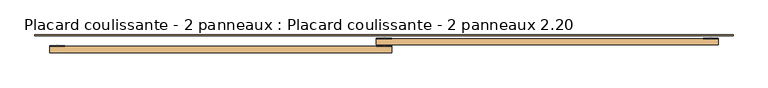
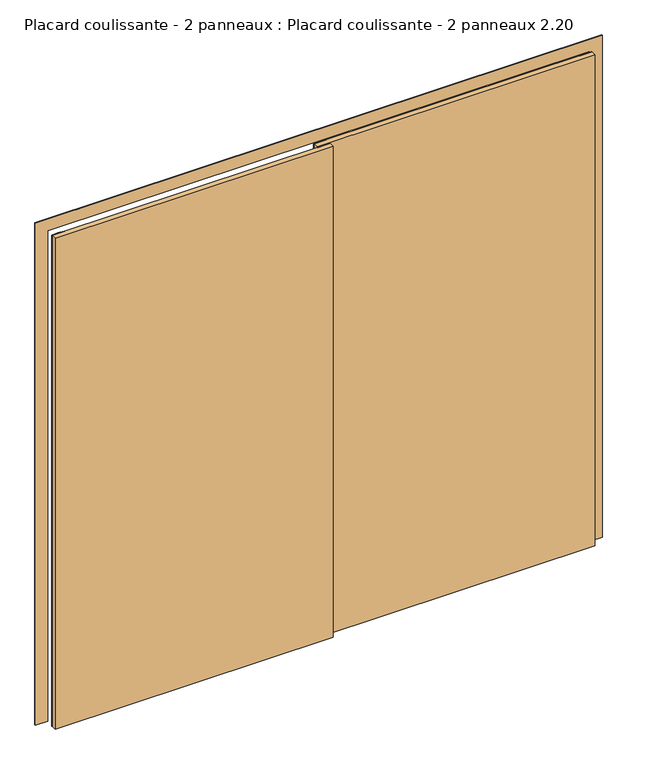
"""IFC4 building model written with IfcOpenShell, lengths in millimetres: door geometry, Placard coulissante - 2 panneaux : Placard coulissante - 2 panneaux 2.20."""

import ifcopenshell
import ifcopenshell.guid

model = None  # the IFC model being written
_history = None  # IfcOwnerHistory: only IFC2X3 demands one
_inside = {}  # id of a spatial element -> (the spatial element, [elements in it])
_under = {}  # id of a project, library or spatial element -> (it, [spatial elements below it])
_declared = {}  # id of a project -> (the project, [libraries it declares])
_typed = {}  # id of a type object -> (the type object, [elements of that type])
_made_of = {}  # id of a material, layer set ... -> (it, [elements and type objects made of it])


def new_model(schema):
    """Start an empty IFC model of exactly this schema.

    Asked for "IFC4X3", IfcOpenShell would pick the latest addendum, in which some entities
    have other attributes; the version numbers below select the first issue.
    IFC2X3 requires an IfcOwnerHistory on every rooted entity: one is made here for all.
    """
    global model, _history
    if schema == "IFC4X3":
        model = ifcopenshell.file(schema_version=(4, 3, 0, 0))
    else:
        model = ifcopenshell.file(schema=schema)
    _inside.clear()
    _under.clear()
    _declared.clear()
    _typed.clear()
    _made_of.clear()
    _history = None
    if model.schema == "IFC2X3":
        org = make("IfcOrganization", Name="unknown")
        user = make(
            "IfcPersonAndOrganization",
            ThePerson=make("IfcPerson", FamilyName="unknown"),
            TheOrganization=org,
        )
        app = make(
            "IfcApplication",
            ApplicationDeveloper=org,
            Version="unknown",
            ApplicationFullName="unknown",
            ApplicationIdentifier="unknown",
        )
        _history = make(
            "IfcOwnerHistory",
            OwningUser=user,
            OwningApplication=app,
            ChangeAction="ADDED",
            CreationDate=0,
        )
    return model


def make(cls, **values):
    """One entity of the class cls with the attributes given. An attribute that is None is left unset."""
    return model.create_entity(
        cls, **{name: value for name, value in values.items() if value is not None}
    )


def rooted(cls, **values):
    """An entity with a GlobalId (a new one), such as an element, a storey or a relation."""
    return make(cls, GlobalId=ifcopenshell.guid.new(), OwnerHistory=_history, **values)


def si_unit(unit_type, name, prefix=None):
    """IfcSIUnit, for example si_unit("LENGTHUNIT", "METRE", prefix="MILLI")."""
    return make("IfcSIUnit", UnitType=unit_type, Prefix=prefix, Name=name)


def assignment(units):
    """IfcUnitAssignment: the units of a project."""
    return None if units is None else make("IfcUnitAssignment", Units=units)


def point(xyz):
    """IfcCartesianPoint."""
    return None if xyz is None else make("IfcCartesianPoint", Coordinates=xyz)


def direction(xyz):
    """IfcDirection."""
    return None if xyz is None else make("IfcDirection", DirectionRatios=xyz)


def frame(location, z_axis=None, x_axis=None):
    """IfcAxis2Placement3D, a coordinate frame: its origin and axes. An axis left out is left unset."""
    return make(
        "IfcAxis2Placement3D",
        Location=point(location),
        Axis=direction(z_axis),
        RefDirection=direction(x_axis),
    )


def frame_2d(location, x_axis=None):
    """IfcAxis2Placement2D, a coordinate frame in the plane: its origin and x axis."""
    return make(
        "IfcAxis2Placement2D", Location=point(location), RefDirection=direction(x_axis)
    )


def origin():
    """The frame at (0, 0, 0) with its axes left unset."""
    return frame((0.0, 0.0, 0.0))


def origin_with_axes():
    """The frame at (0, 0, 0) with the z axis (0, 0, 1) and the x axis (1, 0, 0) written out."""
    return frame((0.0, 0.0, 0.0), z_axis=(0.0, 0.0, 1.0), x_axis=(1.0, 0.0, 0.0))


def place(relative_to, where):
    """IfcLocalPlacement: puts the frame where relative to a parent placement (None: the world)."""
    return make(
        "IfcLocalPlacement", PlacementRelTo=relative_to, RelativePlacement=where
    )


def context(
    kind, dimensions, precision=None, world=None, true_north=None, identifier=None
):
    """IfcGeometricRepresentationContext, for example the 3D "Model" context."""
    return make(
        "IfcGeometricRepresentationContext",
        ContextIdentifier=identifier,
        ContextType=kind,
        CoordinateSpaceDimension=dimensions,
        Precision=precision,
        WorldCoordinateSystem=world,
        TrueNorth=true_north,
    )


def project(units=None, contexts=None):
    """IfcProject with its units and contexts."""
    return rooted(
        "IfcProject",
        Name="project",
        RepresentationContexts=contexts,
        UnitsInContext=assignment(units),
    )


def spatial(cls, under=None, at=None, **own):
    """A site, building, storey or space (cls), placed at a placement, below another one or the project."""
    s = rooted(cls, ObjectPlacement=at, **own)
    if under is not None:
        _under.setdefault(under.id(), (under, []))[1].append(s)
    return s


def polyline(points):
    """IfcPolyline through the points."""
    return make("IfcPolyline", Points=[point(p) for p in points])


def circle_curve(where, radius):
    """IfcCircle in the frame where."""
    return make("IfcCircle", Position=where, Radius=radius)


def trimmed(basis, trim1, trim2, sense, master):
    """IfcTrimmedCurve: the piece of a basis curve between two trims."""
    return make(
        "IfcTrimmedCurve",
        BasisCurve=basis,
        Trim1=trim1,
        Trim2=trim2,
        SenseAgreement=sense,
        MasterRepresentation=master,
    )


def segment(curve, same_sense, transition):
    """IfcCompositeCurveSegment."""
    return make(
        "IfcCompositeCurveSegment",
        Transition=transition,
        SameSense=same_sense,
        ParentCurve=curve,
    )


def composite_curve(segments, self_intersect=None):
    """IfcCompositeCurve: segments joined end to end."""
    return make("IfcCompositeCurve", Segments=segments, SelfIntersect=self_intersect)


def outline(outer, holes=None, kind="AREA"):
    """IfcArbitraryClosedProfileDef: a profile drawn as a closed curve; with holes, ...WithVoids."""
    if holes is None:
        return make("IfcArbitraryClosedProfileDef", ProfileType=kind, OuterCurve=outer)
    return make(
        "IfcArbitraryProfileDefWithVoids",
        ProfileType=kind,
        OuterCurve=outer,
        InnerCurves=holes,
    )


def extrude(swept, where, along, depth):
    """IfcExtrudedAreaSolid: the profile swept, set in the frame where, extruded along a direction by depth."""
    return make(
        "IfcExtrudedAreaSolid",
        SweptArea=swept,
        Position=where,
        ExtrudedDirection=direction(along),
        Depth=depth,
    )


def shape(context_of_items, identifier, shape_type, items):
    """IfcShapeRepresentation: the items that make up one representation, for example the "Body"."""
    return make(
        "IfcShapeRepresentation",
        ContextOfItems=context_of_items,
        RepresentationIdentifier=identifier,
        RepresentationType=shape_type,
        Items=items,
    )


def source(mapping_origin, context_of_items, identifier, shape_type, items):
    """IfcRepresentationMap: a shape defined once, which mapped items show again and again."""
    return make(
        "IfcRepresentationMap",
        MappingOrigin=mapping_origin,
        MappedRepresentation=shape(context_of_items, identifier, shape_type, items),
    )


def transform(
    local_origin,
    x_axis=None,
    y_axis=None,
    z_axis=None,
    scale=None,
    scale2=None,
    scale3=None,
    uniform=True,
):
    """IfcCartesianTransformationOperator3D, or its non-uniform kind. x_axis, y_axis, z_axis: its Axis1, 2, 3."""
    if uniform:
        return make(
            "IfcCartesianTransformationOperator3D",
            Axis1=direction(x_axis),
            Axis2=direction(y_axis),
            LocalOrigin=point(local_origin),
            Scale=scale,
            Axis3=direction(z_axis),
        )
    return make(
        "IfcCartesianTransformationOperator3DnonUniform",
        Axis1=direction(x_axis),
        Axis2=direction(y_axis),
        LocalOrigin=point(local_origin),
        Scale=scale,
        Axis3=direction(z_axis),
        Scale2=scale2,
        Scale3=scale3,
    )


def mapped(mapping_source, mapping_target):
    """IfcMappedItem: shows the shape of a source again, moved by a transform."""
    return make(
        "IfcMappedItem", MappingSource=mapping_source, MappingTarget=mapping_target
    )


def made_of(thing, what):
    """Note that an element or type object is made of a material, layer set ...; save() writes the relation."""
    if what is not None:
        _made_of.setdefault(what.id(), (what, []))[1].append(thing)
    return thing


def element(
    cls,
    number,
    at=None,
    inside=None,
    cuts=None,
    type_object=None,
    material=None,
    context=None,
    identifier="Body",
    shape_type=None,
    held_by="IfcProductDefinitionShape",
    body=None,
    shapes=None,
    **own,
):
    """One element of the class cls, such as IfcWall. Its Tag is "e" and its number.

    at: its placement. inside: the storey or other place that contains it. cuts: it is an
    opening in that element (IfcRelVoidsElement). A single representation is given by context,
    identifier, shape_type and body (its items); several are given by shapes. held_by: the class
    of the entity that holds the representations. save() writes the other relations.
    """
    e = rooted(cls, Tag="e%d" % number, ObjectPlacement=at, **own)
    if body is not None:
        shapes = [shape(context, identifier, shape_type, body)]
    if shapes is not None:
        e.Representation = make(held_by, Representations=shapes)
    if inside is not None:
        _inside.setdefault(inside.id(), (inside, []))[1].append(e)
    if cuts is not None:
        rooted(
            "IfcRelVoidsElement", RelatingBuildingElement=cuts, RelatedOpeningElement=e
        )
    if type_object is not None:
        _typed.setdefault(type_object.id(), (type_object, []))[1].append(e)
    return made_of(e, material)


def aggregate(whole, parts):
    """IfcRelAggregates: a whole, such as a stair, and the parts it consists of."""
    return rooted("IfcRelAggregates", RelatingObject=whole, RelatedObjects=parts)


def save(model, path):
    """Write the relations noted so far, then the file.

    IfcRelAggregates (storeys below a building ...), IfcRelContainedInSpatialStructure (elements
    in a storey), IfcRelDefinesByType, IfcRelAssociatesMaterial and IfcRelDeclares: one each for
    every whole, place, type object, material and project.
    """
    for whole, parts in _under.values():
        aggregate(whole, parts)
    for where, things in _inside.values():
        rooted(
            "IfcRelContainedInSpatialStructure",
            RelatedElements=things,
            RelatingStructure=where,
        )
    for kind, things in _typed.values():
        rooted("IfcRelDefinesByType", RelatedObjects=things, RelatingType=kind)
    for what, things in _made_of.values():
        rooted("IfcRelAssociatesMaterial", RelatedObjects=things, RelatingMaterial=what)
    for by, libraries in _declared.values():
        rooted("IfcRelDeclares", RelatingContext=by, RelatedDefinitions=libraries)
    model.write(path)


def placard_coulissante_2_panneaux_placard_coulissante_2_653aa74b(model_context):
    return source(origin(), model_context, "Body", "SweptSolid", [
        extrude(outline(composite_curve([segment(polyline([(1100.0, 25.0), (1050.0, 25.0), (1050.0, 27.0)]), True, "CONTINUOUS"), segment(trimmed(circle_curve(frame_2d((1075.0, -186.8603852)), 215.3166607), [point((1050.0, 27.0))], [point((1100.0, 27.0))], False, "CARTESIAN"), True, "CONTINUOUS"), segment(polyline([(1100.0, 27.0), (1100.0, 25.0)]), True, "CONTINUOUS")], self_intersect=False)), origin_with_axes(), (0.0, 0.0, 1.0), 2100.0),
        extrude(outline(composite_curve([segment(polyline([(25.0, 25.0), (-25.0, 25.0), (-25.0, 27.0)]), True, "CONTINUOUS"), segment(trimmed(circle_curve(frame_2d((0.0, -186.8603852)), 215.3166607), [point((-25.0, 27.0))], [point((25.0, 27.0))], False, "CARTESIAN"), True, "CONTINUOUS"), segment(polyline([(25.0, 27.0), (25.0, 25.0)]), True, "CONTINUOUS")], self_intersect=False)), origin_with_axes(), (0.0, 0.0, 1.0), 2100.0),
        extrude(outline(composite_curve([segment(polyline([(25.0, 0.0), (-25.0, 0.0), (-25.0, 2.0)]), True, "CONTINUOUS"), segment(trimmed(circle_curve(frame_2d((0.0, -211.8603852)), 215.3166607), [point((-25.0, 2.0))], [point((25.0, 2.0))], False, "CARTESIAN"), True, "CONTINUOUS"), segment(polyline([(25.0, 2.0), (25.0, 0.0)]), True, "CONTINUOUS")], self_intersect=False)), origin_with_axes(), (0.0, 0.0, 1.0), 2100.0),
        extrude(outline(composite_curve([segment(polyline([(-1050.0, 0.0), (-1100.0, 0.0), (-1100.0, 2.0)]), True, "CONTINUOUS"), segment(trimmed(circle_curve(frame_2d((-1075.0, -211.8603852)), 215.3166607), [point((-1100.0, 2.0))], [point((-1050.0, 2.0))], False, "CARTESIAN"), True, "CONTINUOUS"), segment(polyline([(-1050.0, 2.0), (-1050.0, 0.0)]), True, "CONTINUOUS")], self_intersect=False)), origin_with_axes(), (0.0, 0.0, 1.0), 2100.0),
        extrude(outline(polyline([(0.0, -1098.0), (2098.0, -1098.0), (2098.0, 1098.0), (0.0, 1098.0), (0.0, 1148.0), (2148.0, 1148.0), (2148.0, -1148.0), (0.0, -1148.0), (0.0, -1098.0)])), frame((0.0, 35.0, 0.0), z_axis=(0.0, 1.0, 0.0), x_axis=(0.0, 0.0, 1.0)), (0.0, 0.0, 1.0), 3.0),
        extrude(outline(polyline([(1100.0, 25.0), (1100.0, 5.0), (-25.0, 5.0), (-25.0, 25.0), (1100.0, 25.0)])), origin_with_axes(), (0.0, 0.0, 1.0), 2100.0),
        extrude(outline(polyline([(25.0, 0.0), (25.0, -20.0), (-1100.0, -20.0), (-1100.0, 0.0), (25.0, 0.0)])), origin_with_axes(), (0.0, 0.0, 1.0), 2100.0),
    ])


if __name__ == "__main__":
    model = new_model("IFC4")
    model_context = context("Model", 3, world=origin())
    ifc_project = project(units=[si_unit("LENGTHUNIT", "METRE", prefix="MILLI")], contexts=[model_context])
    site = spatial("IfcSite", under=ifc_project)
    building = spatial("IfcBuilding", under=site)
    placement = place(None, origin())
    placard_coulissante_2_panneaux_placard_coulissante_2_shape = placard_coulissante_2_panneaux_placard_coulissante_2_653aa74b(model_context)
    element("IfcDoor", 1, ObjectType="Placard coulissante - 2 panneaux : Placard coulissante - 2 panneaux 2.20", at=placement, inside=building, context=model_context, shape_type="MappedRepresentation", body=[
        mapped(placard_coulissante_2_panneaux_placard_coulissante_2_shape, transform((0.0, 0.0, 0.0), x_axis=(1.0, 0.0, 0.0), y_axis=(0.0, 1.0, 0.0), z_axis=(0.0, 0.0, 1.0))),
    ])
    save(model, "model.ifc")
